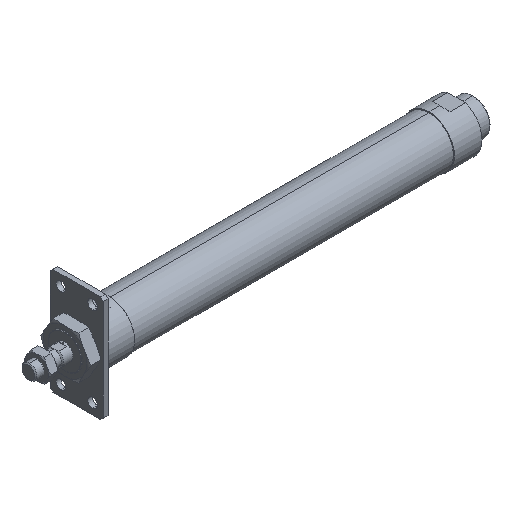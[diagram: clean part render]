
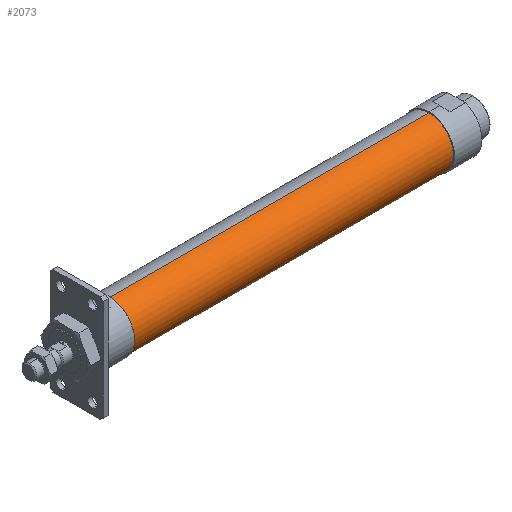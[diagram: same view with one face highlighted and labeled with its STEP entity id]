
A CAD part, isometric view. The second image highlights one B-rep face of the part: STEP entity #2073.
In plain terms, the highlighted cylindrical face has radius 23 mm (diameter 46 mm), a partial arc.
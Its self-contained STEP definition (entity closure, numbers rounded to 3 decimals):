
#395 = DIRECTION ( 'NONE',  ( -1., 0., 0. ) ) ;
#465 = AXIS2_PLACEMENT_3D ( 'NONE', #4030, #395, #3193 ) ;
#575 = DIRECTION ( 'NONE',  ( -1., 0., 0. ) ) ;
#623 = CARTESIAN_POINT ( 'NONE',  ( 377., 0., -23. ) ) ;
#713 = CARTESIAN_POINT ( 'NONE',  ( -1.784, 0., -23. ) ) ;
#761 = DIRECTION ( 'NONE',  ( -1., 0., 0. ) ) ;
#825 = CARTESIAN_POINT ( 'NONE',  ( -1.784, 0., 23. ) ) ;
#914 = VERTEX_POINT ( 'NONE', #3062 ) ;
#936 = EDGE_CURVE ( 'NONE', #3951, #3902, #1055, .T. ) ;
#1055 = LINE ( 'NONE', #713, #2772 ) ;
#1112 = LINE ( 'NONE', #825, #2957 ) ;
#1313 = DIRECTION ( 'NONE',  ( -1., 0., 0. ) ) ;
#1467 = EDGE_CURVE ( 'NONE', #3951, #2755, #2045, .T. ) ;
#1681 = ORIENTED_EDGE ( 'NONE', *, *, #1467, .T. ) ;
#1753 = EDGE_LOOP ( 'NONE', ( #2540, #1681, #2366, #4075 ) ) ;
#1927 = DIRECTION ( 'NONE',  ( 0., 0., 1. ) ) ;
#2045 = CIRCLE ( 'NONE', #465, 23. ) ;
#2073 = ADVANCED_FACE ( 'NONE', ( #3926 ), #3030, .T. ) ;
#2185 = CARTESIAN_POINT ( 'NONE',  ( 76., 0., 0. ) ) ;
#2366 = ORIENTED_EDGE ( 'NONE', *, *, #3653, .T. ) ;
#2540 = ORIENTED_EDGE ( 'NONE', *, *, #936, .F. ) ;
#2755 = VERTEX_POINT ( 'NONE', #2849 ) ;
#2772 = VECTOR ( 'NONE', #4137, 1000. ) ;
#2839 = AXIS2_PLACEMENT_3D ( 'NONE', #2953, #575, #3091 ) ;
#2849 = CARTESIAN_POINT ( 'NONE',  ( 377., 0., 23. ) ) ;
#2953 = CARTESIAN_POINT ( 'NONE',  ( -1.784, 0., 0. ) ) ;
#2957 = VECTOR ( 'NONE', #1313, 1000. ) ;
#3030 = CYLINDRICAL_SURFACE ( 'NONE', #2839, 23. ) ;
#3062 = CARTESIAN_POINT ( 'NONE',  ( 76., 0., 23. ) ) ;
#3091 = DIRECTION ( 'NONE',  ( 0., 0., 1. ) ) ;
#3193 = DIRECTION ( 'NONE',  ( 0., 0., 1. ) ) ;
#3471 = CIRCLE ( 'NONE', #3963, 23. ) ;
#3508 = CARTESIAN_POINT ( 'NONE',  ( 76., 0., -23. ) ) ;
#3653 = EDGE_CURVE ( 'NONE', #2755, #914, #1112, .T. ) ;
#3902 = VERTEX_POINT ( 'NONE', #3508 ) ;
#3926 = FACE_OUTER_BOUND ( 'NONE', #1753, .T. ) ;
#3951 = VERTEX_POINT ( 'NONE', #623 ) ;
#3963 = AXIS2_PLACEMENT_3D ( 'NONE', #2185, #761, #1927 ) ;
#4030 = CARTESIAN_POINT ( 'NONE',  ( 377., 0., 0. ) ) ;
#4074 = EDGE_CURVE ( 'NONE', #3902, #914, #3471, .T. ) ;
#4075 = ORIENTED_EDGE ( 'NONE', *, *, #4074, .F. ) ;
#4137 = DIRECTION ( 'NONE',  ( -1., 0., 0. ) ) ;
